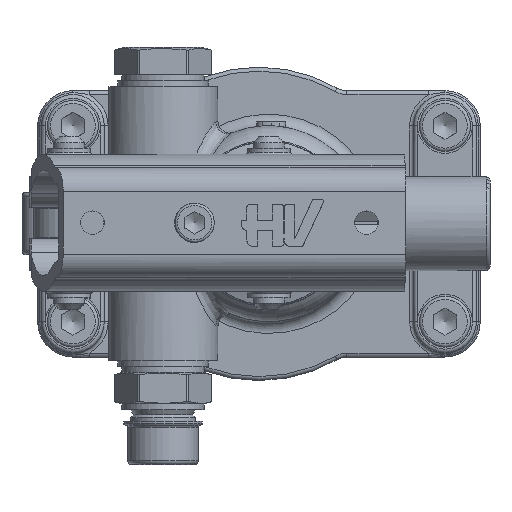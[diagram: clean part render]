
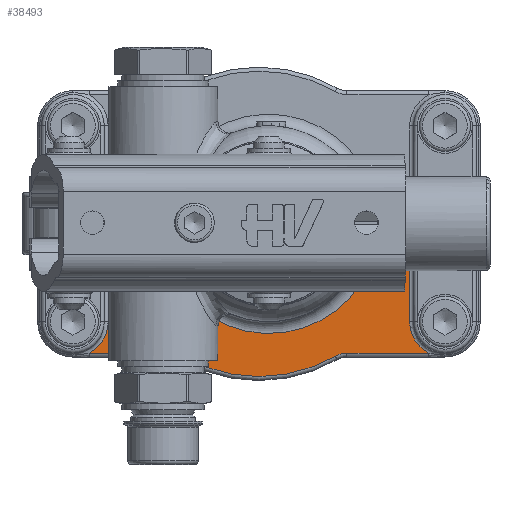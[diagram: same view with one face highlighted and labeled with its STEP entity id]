
A CAD part, top view. The second image highlights one B-rep face of the part: STEP entity #38493.
In plain terms, the highlighted planar face has unit normal (0, 0, 1).
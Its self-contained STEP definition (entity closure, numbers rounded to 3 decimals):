
#37773=CARTESIAN_POINT('',(23.,23.,6.));
#37774=VERTEX_POINT('',#37773);
#37799=CARTESIAN_POINT('',(23.,17.,6.));
#37800=VERTEX_POINT('',#37799);
#37801=CARTESIAN_POINT('',(23.,23.,6.));
#37802=DIRECTION('',(0.0,-1.0,0.0));
#37803=VECTOR('',#37802,6.);
#37804=LINE('',#37801,#37803);
#37805=EDGE_CURVE('',#37774,#37800,#37804,.T.);
#37837=CARTESIAN_POINT('',(84.957,23.5,6.));
#37838=VERTEX_POINT('',#37837);
#37846=CARTESIAN_POINT('',(95.,23.5,6.));
#37847=VERTEX_POINT('',#37846);
#37848=CARTESIAN_POINT('',(84.957,23.5,6.));
#37849=DIRECTION('',(1.0,0.0,0.0));
#37850=VECTOR('',#37849,10.043);
#37851=LINE('',#37848,#37850);
#37852=EDGE_CURVE('',#37838,#37847,#37851,.T.);
#37870=CARTESIAN_POINT('',(40.187,13.262,6.));
#37871=VERTEX_POINT('',#37870);
#37872=CARTESIAN_POINT('',(32.,17.,6.));
#37873=DIRECTION('',(0.0,0.0,1.0));
#37874=DIRECTION('',(-0.91,0.415,0.0));
#37875=AXIS2_PLACEMENT_3D('',#37872,#37873,#37874);
#37876=CIRCLE('',#37875,9.0);
#37877=EDGE_CURVE('',#37800,#37871,#37876,.T.);
#37930=CARTESIAN_POINT('',(59.,34.0,6.));
#37931=DIRECTION('',(0.0,0.0,1.0));
#37932=DIRECTION('',(0.231,0.973,0.0));
#37933=AXIS2_PLACEMENT_3D('',#37930,#37931,#37932);
#37934=CIRCLE('',#37933,28.);
#37935=EDGE_CURVE('',#37871,#37838,#37934,.T.);
#38159=CARTESIAN_POINT('',(18.,23.,6.));
#38160=VERTEX_POINT('',#38159);
#38168=CARTESIAN_POINT('',(18.,23.,6.));
#38169=DIRECTION('',(1.0,0.0,0.0));
#38170=VECTOR('',#38169,5.);
#38171=LINE('',#38168,#38170);
#38172=EDGE_CURVE('',#38160,#37774,#38171,.T.);
#38367=CARTESIAN_POINT('',(18.,9.,6.));
#38368=VERTEX_POINT('',#38367);
#38376=CARTESIAN_POINT('',(18.0,9.0,6.));
#38377=DIRECTION('',(0.0,1.0,0.0));
#38378=VECTOR('',#38377,14.);
#38379=LINE('',#38376,#38378);
#38380=EDGE_CURVE('',#38368,#38160,#38379,.T.);
#38390=CARTESIAN_POINT('',(13.123,1.,6.));
#38391=VERTEX_POINT('',#38390);
#38401=CARTESIAN_POINT('',(9.,9.0,6.));
#38402=DIRECTION('',(0.0,0.0,1.0));
#38403=DIRECTION('',(0.0,-1.0,0.0));
#38404=AXIS2_PLACEMENT_3D('',#38401,#38402,#38403);
#38405=CIRCLE('',#38404,9.0);
#38406=EDGE_CURVE('',#38391,#38368,#38405,.T.);
#38421=CARTESIAN_POINT('',(56.5,34.,6.));
#38422=DIRECTION('',(0.0,0.0,1.0));
#38423=DIRECTION('',(1.0,0.0,0.0));
#38424=AXIS2_PLACEMENT_3D('',#38421,#38422,#38423);
#38425=PLANE('',#38424);
#38426=CARTESIAN_POINT('',(99.877,1.,6.));
#38427=VERTEX_POINT('',#38426);
#38428=CARTESIAN_POINT('',(78.95,1.0,6.));
#38429=VERTEX_POINT('',#38428);
#38430=CARTESIAN_POINT('',(99.877,1.,6.));
#38431=DIRECTION('',(-1.0,0.0,0.0));
#38432=VECTOR('',#38431,20.927);
#38433=LINE('',#38430,#38432);
#38434=EDGE_CURVE('',#38427,#38429,#38433,.T.);
#38435=ORIENTED_EDGE('',*,*,#38434,.F.);
#38436=CARTESIAN_POINT('',(95.0,9.0,6.));
#38437=VERTEX_POINT('',#38436);
#38438=CARTESIAN_POINT('',(104.0,9.,6.));
#38439=DIRECTION('',(0.0,0.0,1.0));
#38440=DIRECTION('',(0.0,-1.0,0.0));
#38441=AXIS2_PLACEMENT_3D('',#38438,#38439,#38440);
#38442=CIRCLE('',#38441,9.0);
#38443=EDGE_CURVE('',#38437,#38427,#38442,.T.);
#38444=ORIENTED_EDGE('',*,*,#38443,.F.);
#38445=CARTESIAN_POINT('',(95.,23.5,6.));
#38446=DIRECTION('',(0.0,-1.0,0.0));
#38447=VECTOR('',#38446,14.5);
#38448=LINE('',#38445,#38447);
#38449=EDGE_CURVE('',#37847,#38437,#38448,.T.);
#38450=ORIENTED_EDGE('',*,*,#38449,.F.);
#38451=ORIENTED_EDGE('',*,*,#37852,.F.);
#38452=ORIENTED_EDGE('',*,*,#37935,.F.);
#38453=ORIENTED_EDGE('',*,*,#37877,.F.);
#38454=ORIENTED_EDGE('',*,*,#37805,.F.);
#38455=ORIENTED_EDGE('',*,*,#38172,.F.);
#38456=ORIENTED_EDGE('',*,*,#38380,.F.);
#38457=ORIENTED_EDGE('',*,*,#38406,.F.);
#38458=CARTESIAN_POINT('',(34.05,1.,6.));
#38459=VERTEX_POINT('',#38458);
#38460=CARTESIAN_POINT('',(34.05,1.,6.));
#38461=DIRECTION('',(-1.0,0.0,0.0));
#38462=VECTOR('',#38461,20.927);
#38463=LINE('',#38460,#38462);
#38464=EDGE_CURVE('',#38459,#38391,#38463,.T.);
#38465=ORIENTED_EDGE('',*,*,#38464,.F.);
#38466=CARTESIAN_POINT('',(37.043,0.2,6.));
#38467=VERTEX_POINT('',#38466);
#38468=CARTESIAN_POINT('',(34.05,-5.0,6.));
#38469=DIRECTION('',(0.0,0.0,1.0));
#38470=DIRECTION('',(0.258,0.966,0.0));
#38471=AXIS2_PLACEMENT_3D('',#38468,#38469,#38470);
#38472=CIRCLE('',#38471,6.0);
#38473=EDGE_CURVE('',#38467,#38459,#38472,.T.);
#38474=ORIENTED_EDGE('',*,*,#38473,.F.);
#38475=CARTESIAN_POINT('',(75.957,0.2,6.));
#38476=VERTEX_POINT('',#38475);
#38477=CARTESIAN_POINT('',(56.5,34.0,6.));
#38478=DIRECTION('',(0.0,0.0,-1.0));
#38479=DIRECTION('',(0.0,-1.0,0.0));
#38480=AXIS2_PLACEMENT_3D('',#38477,#38478,#38479);
#38481=CIRCLE('',#38480,39.0);
#38482=EDGE_CURVE('',#38476,#38467,#38481,.T.);
#38483=ORIENTED_EDGE('',*,*,#38482,.F.);
#38484=CARTESIAN_POINT('',(78.95,-5.0,6.));
#38485=DIRECTION('',(0.0,0.0,1.0));
#38486=DIRECTION('',(-0.258,0.966,0.0));
#38487=AXIS2_PLACEMENT_3D('',#38484,#38485,#38486);
#38488=CIRCLE('',#38487,6.);
#38489=EDGE_CURVE('',#38429,#38476,#38488,.T.);
#38490=ORIENTED_EDGE('',*,*,#38489,.F.);
#38491=EDGE_LOOP('',(#38435,#38444,#38450,#38451,#38452,#38453,#38454,#38455,#38456,#38457,#38465,#38474,#38483,#38490));
#38492=FACE_OUTER_BOUND('',#38491,.T.);
#38493=ADVANCED_FACE('',(#38492),#38425,.T.);
